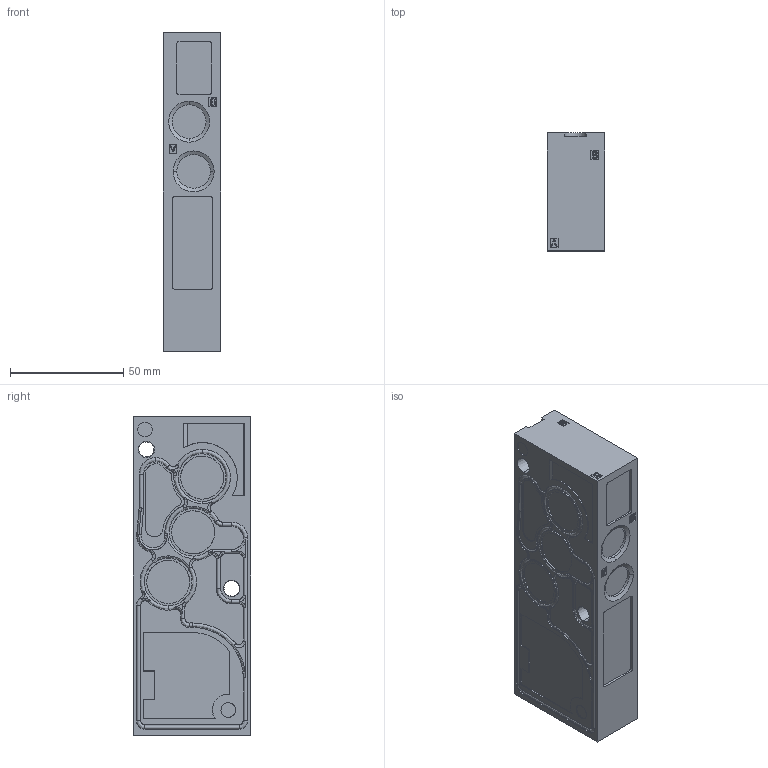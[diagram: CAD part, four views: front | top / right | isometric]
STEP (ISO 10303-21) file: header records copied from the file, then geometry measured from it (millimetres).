
FILE_DESCRIPTION (( 'STEP AP214' ), '1' );
FILE_NAME ('92A-000-C2K.STEP', '2019-08-09T13:20:10', ( '' ), ( '' ), 'SwSTEP 2.0', 'SolidWorks 2014', '' );
FILE_SCHEMA (( 'AUTOMOTIVE_DESIGN' ));
Length unit declared in the file: inch
Products named in the file (2): 92-BASE-C2J; 92A-000-C2K
Assembly tree (1 placements, depth 2):
  92A-000-C2K
    92-BASE-C2J
Bounding box: 25.5 x 52 x 141 mm (x, y, z)
Volume: 179296.9 mm3; surface area: 31246.8 mm2
Topology: 2 solids, 2 shells, 654 faces, 1715 edges, 1115 vertices
Faces by surface type: plane 301, cylinder 222, bspline 78, cone 53
Entity records: 34757 total; most frequent: CARTESIAN_POINT 10571, ORIENTED_EDGE 3430, DIRECTION 3001, EDGE_CURVE 1715, VERTEX_POINT 1115, AXIS2_PLACEMENT_3D 1021, LINE 959, VECTOR 959
